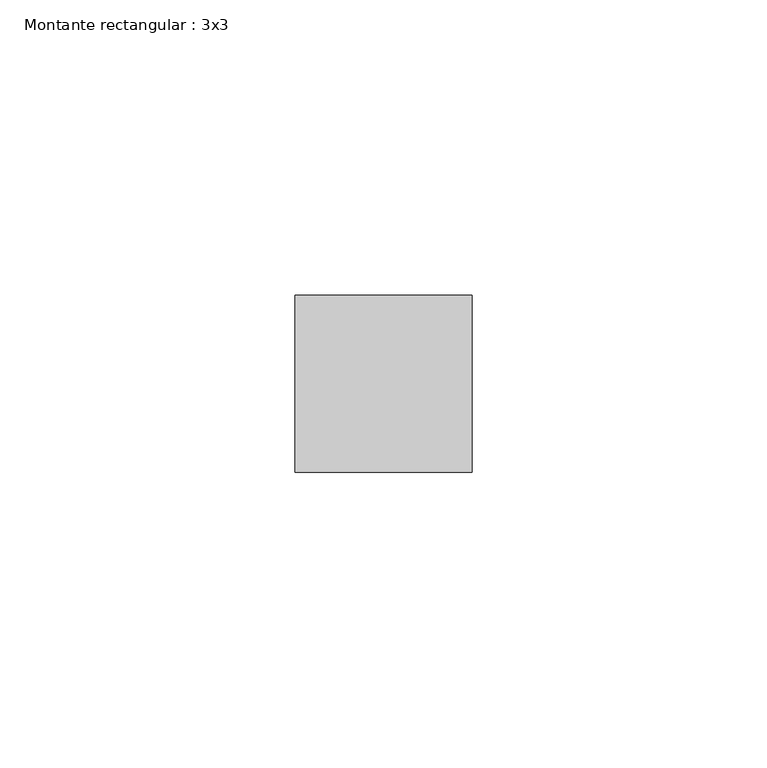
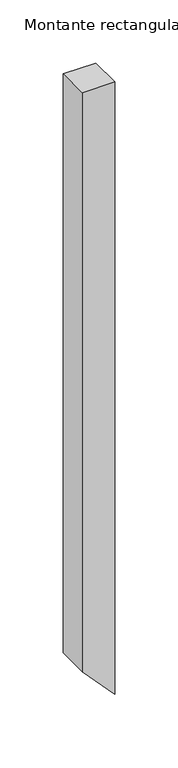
"""IFC4 building model written with IfcOpenShell, lengths in millimetres: member geometry, Montante rectangular : 3x3."""

from ifc_helpers import new_model, si_unit, frame, origin, place, context, project, spatial, polyline, outline, extrude, source, transform, mapped, element, save


def montante_rectangular_3x3_420c5f01(model_context):
    return source(origin(), model_context, "Body", "SweptSolid", [
        extrude(outline(polyline([(0.0, 0.0), (0.0, -30.0), (-559.9701437, -30.0), (-592.242349, 0.0), (0.0, 0.0)])), frame((0.0, -15.0, 0.0), z_axis=(0.0, 1.0, 0.0), x_axis=(0.0, 0.0, 1.0)), (0.0, 0.0, 1.0), 30.0),
    ])


if __name__ == "__main__":
    model = new_model("IFC4")
    model_context = context("Model", 3, world=origin())
    ifc_project = project(units=[si_unit("LENGTHUNIT", "METRE", prefix="MILLI")], contexts=[model_context])
    site = spatial("IfcSite", under=ifc_project)
    building = spatial("IfcBuilding", under=site)
    placement = place(None, origin())
    montante_rectangular_3x3_shape = montante_rectangular_3x3_420c5f01(model_context)
    element("IfcMember", 1, ObjectType="Montante rectangular : 3x3", at=placement, inside=building, context=model_context, shape_type="MappedRepresentation", body=[
        mapped(montante_rectangular_3x3_shape, transform((0.0, 0.0, 0.0), x_axis=(1.0, 0.0, 0.0), y_axis=(0.0, 1.0, 0.0), z_axis=(0.0, 0.0, 1.0))),
    ])
    save(model, "model.ifc")
